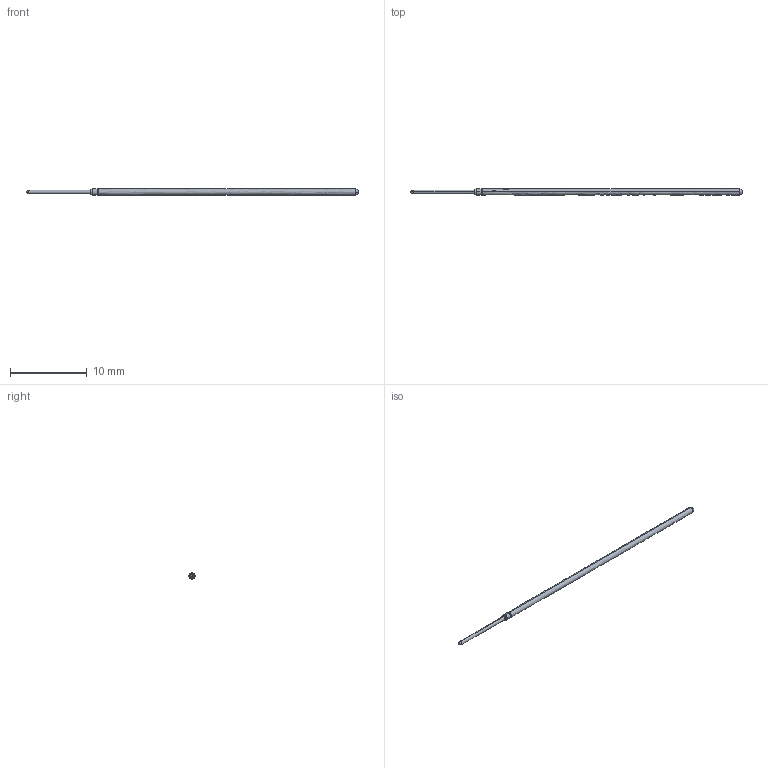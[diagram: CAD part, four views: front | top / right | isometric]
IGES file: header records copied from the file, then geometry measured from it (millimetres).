
Start section: SolidWorks IGES file using analytic representation for surfaces
Global section: file name: L:\probe solid model mockups\Solidworks models\POGO-72I8.IGS; native system: SolidWorks 2006 by SolidWorks Corporation; preprocessor: SolidWorks 2006 by SolidWorks Corporation; author: Ksnyder; date: 071211.135803; units: inch
Bounding box: 43.18 x 0.79 x 0.79 mm (x, y, z)
Surface area: 182 mm2
Topology: 1 solids, 1 shells, 26 faces, 56 edges, 31 vertices
Faces by surface type: revolution 16, plane 10
